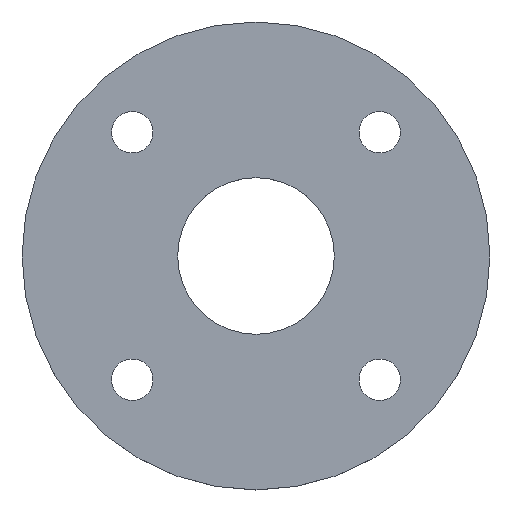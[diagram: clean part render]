
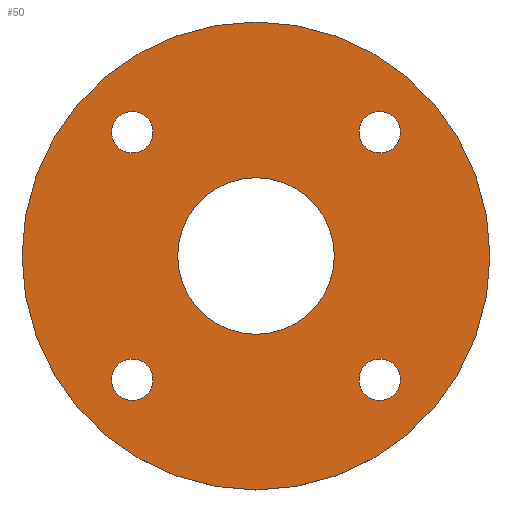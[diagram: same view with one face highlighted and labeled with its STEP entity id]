
A CAD part, top view. The second image highlights one B-rep face of the part: STEP entity #50.
In plain terms, the highlighted planar face has unit normal (0, 0, 1).
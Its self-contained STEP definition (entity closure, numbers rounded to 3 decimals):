
#21 = EDGE_CURVE('',#22,#22,#24,.T.);
#22 = VERTEX_POINT('',#23);
#23 = CARTESIAN_POINT('',(25.4,0.,3.));
#24 = CIRCLE('',#25,25.4);
#25 = AXIS2_PLACEMENT_3D('',#26,#27,#28);
#26 = CARTESIAN_POINT('',(0.,0.,3.));
#27 = DIRECTION('',(0.,0.,1.));
#28 = DIRECTION('',(1.,0.,0.));
#50 = ADVANCED_FACE('',(#51,#54,#65,#76,#87,#98),#109,.T.);
#51 = FACE_BOUND('',#52,.T.);
#52 = EDGE_LOOP('',(#53));
#53 = ORIENTED_EDGE('',*,*,#21,.T.);
#54 = FACE_BOUND('',#55,.T.);
#55 = EDGE_LOOP('',(#56));
#56 = ORIENTED_EDGE('',*,*,#57,.F.);
#57 = EDGE_CURVE('',#58,#58,#60,.T.);
#58 = VERTEX_POINT('',#59);
#59 = CARTESIAN_POINT('',(-11.185,-13.435,3.));
#60 = CIRCLE('',#61,2.25);
#61 = AXIS2_PLACEMENT_3D('',#62,#63,#64);
#62 = CARTESIAN_POINT('',(-13.435,-13.435,3.));
#63 = DIRECTION('',(0.,0.,1.));
#64 = DIRECTION('',(1.,0.,0.));
#65 = FACE_BOUND('',#66,.T.);
#66 = EDGE_LOOP('',(#67));
#67 = ORIENTED_EDGE('',*,*,#68,.F.);
#68 = EDGE_CURVE('',#69,#69,#71,.T.);
#69 = VERTEX_POINT('',#70);
#70 = CARTESIAN_POINT('',(15.685,-13.435,3.));
#71 = CIRCLE('',#72,2.25);
#72 = AXIS2_PLACEMENT_3D('',#73,#74,#75);
#73 = CARTESIAN_POINT('',(13.435,-13.435,3.));
#74 = DIRECTION('',(0.,0.,1.));
#75 = DIRECTION('',(1.,0.,0.));
#76 = FACE_BOUND('',#77,.T.);
#77 = EDGE_LOOP('',(#78));
#78 = ORIENTED_EDGE('',*,*,#79,.F.);
#79 = EDGE_CURVE('',#80,#80,#82,.T.);
#80 = VERTEX_POINT('',#81);
#81 = CARTESIAN_POINT('',(-11.185,13.435,3.));
#82 = CIRCLE('',#83,2.25);
#83 = AXIS2_PLACEMENT_3D('',#84,#85,#86);
#84 = CARTESIAN_POINT('',(-13.435,13.435,3.));
#85 = DIRECTION('',(0.,0.,1.));
#86 = DIRECTION('',(1.,0.,0.));
#87 = FACE_BOUND('',#88,.T.);
#88 = EDGE_LOOP('',(#89));
#89 = ORIENTED_EDGE('',*,*,#90,.F.);
#90 = EDGE_CURVE('',#91,#91,#93,.T.);
#91 = VERTEX_POINT('',#92);
#92 = CARTESIAN_POINT('',(8.5,0.,3.));
#93 = CIRCLE('',#94,8.5);
#94 = AXIS2_PLACEMENT_3D('',#95,#96,#97);
#95 = CARTESIAN_POINT('',(0.,0.,3.));
#96 = DIRECTION('',(0.,0.,1.));
#97 = DIRECTION('',(1.,0.,0.));
#98 = FACE_BOUND('',#99,.T.);
#99 = EDGE_LOOP('',(#100));
#100 = ORIENTED_EDGE('',*,*,#101,.F.);
#101 = EDGE_CURVE('',#102,#102,#104,.T.);
#102 = VERTEX_POINT('',#103);
#103 = CARTESIAN_POINT('',(15.685,13.435,3.));
#104 = CIRCLE('',#105,2.25);
#105 = AXIS2_PLACEMENT_3D('',#106,#107,#108);
#106 = CARTESIAN_POINT('',(13.435,13.435,3.));
#107 = DIRECTION('',(0.,0.,1.));
#108 = DIRECTION('',(1.,0.,0.));
#109 = PLANE('',#110);
#110 = AXIS2_PLACEMENT_3D('',#111,#112,#113);
#111 = CARTESIAN_POINT('',(0.,0.,3.));
#112 = DIRECTION('',(0.,0.,1.));
#113 = DIRECTION('',(1.,0.,0.));
